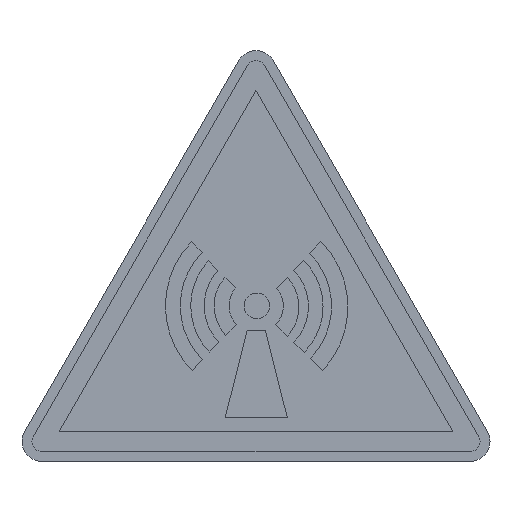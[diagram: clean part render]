
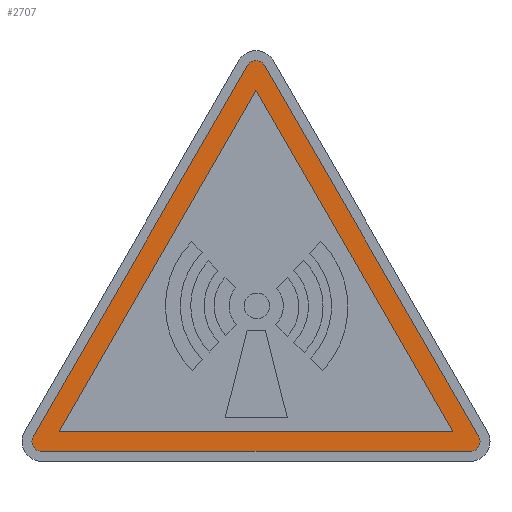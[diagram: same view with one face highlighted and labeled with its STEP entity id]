
A CAD part, top view. The second image highlights one B-rep face of the part: STEP entity #2707.
In plain terms, the highlighted planar face has unit normal (0, 0, 1).
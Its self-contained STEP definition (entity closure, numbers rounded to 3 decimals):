
#32 = DIRECTION ( 'NONE',  ( -0.5, -0.866, 0. ) ) ;
#47 = EDGE_CURVE ( 'NONE', #2139, #2609, #1051, .T. ) ;
#52 = CARTESIAN_POINT ( 'NONE',  ( -21.536, 1., 0.22 ) ) ;
#195 = CARTESIAN_POINT ( 'NONE',  ( 0., 39.301, 0.22 ) ) ;
#313 = VECTOR ( 'NONE', #970, 1000. ) ;
#366 = ORIENTED_EDGE ( 'NONE', *, *, #1583, .T. ) ;
#439 = VECTOR ( 'NONE', #1752, 1000. ) ;
#453 = CARTESIAN_POINT ( 'NONE',  ( 22.402, 2.5, 0.22 ) ) ;
#458 = CARTESIAN_POINT ( 'NONE',  ( -0.866, 39.801, 0.22 ) ) ;
#478 = EDGE_CURVE ( 'NONE', #1456, #522, #1004, .T. ) ;
#486 = CARTESIAN_POINT ( 'NONE',  ( 19.804, 3., 0.22 ) ) ;
#522 = VERTEX_POINT ( 'NONE', #799 ) ;
#561 = CARTESIAN_POINT ( 'NONE',  ( 22.402, 2.5, 0.22 ) ) ;
#567 = DIRECTION ( 'NONE',  ( 0., 0., 1. ) ) ;
#636 = CARTESIAN_POINT ( 'NONE',  ( 21.536, 1., 0.22 ) ) ;
#669 = DIRECTION ( 'NONE',  ( 0., 0., 1. ) ) ;
#693 = VERTEX_POINT ( 'NONE', #1804 ) ;
#715 = CARTESIAN_POINT ( 'NONE',  ( -22.536, 2., 0.22 ) ) ;
#799 = CARTESIAN_POINT ( 'NONE',  ( 0.866, 39.801, 0.22 ) ) ;
#816 = CARTESIAN_POINT ( 'NONE',  ( -21.536, 2., 0.22 ) ) ;
#836 = AXIS2_PLACEMENT_3D ( 'NONE', #1662, #2465, #1909 ) ;
#838 = DIRECTION ( 'NONE',  ( 0., 0., 1. ) ) ;
#845 = LINE ( 'NONE', #1081, #1607 ) ;
#854 = CARTESIAN_POINT ( 'NONE',  ( 0., 37.301, 0.22 ) ) ;
#914 = AXIS2_PLACEMENT_3D ( 'NONE', #2608, #669, #1544 ) ;
#941 = EDGE_CURVE ( 'NONE', #1649, #2005, #1303, .T. ) ;
#943 = AXIS2_PLACEMENT_3D ( 'NONE', #195, #838, #1519 ) ;
#970 = DIRECTION ( 'NONE',  ( -0.5, 0.866, 0. ) ) ;
#1004 = LINE ( 'NONE', #561, #313 ) ;
#1030 = EDGE_CURVE ( 'NONE', #1937, #1649, #1845, .T. ) ;
#1051 = CIRCLE ( 'NONE', #2438, 1. ) ;
#1059 = VECTOR ( 'NONE', #1356, 1000. ) ;
#1081 = CARTESIAN_POINT ( 'NONE',  ( 0., 37.301, 0.22 ) ) ;
#1108 = CIRCLE ( 'NONE', #914, 1. ) ;
#1123 = ORIENTED_EDGE ( 'NONE', *, *, #2010, .T. ) ;
#1176 = CARTESIAN_POINT ( 'NONE',  ( -19.804, 3., 0.22 ) ) ;
#1232 = DIRECTION ( 'NONE',  ( 0., 0., 1. ) ) ;
#1253 = EDGE_LOOP ( 'NONE', ( #2560, #1477, #2297 ) ) ;
#1267 = ORIENTED_EDGE ( 'NONE', *, *, #1866, .T. ) ;
#1277 = VECTOR ( 'NONE', #2689, 1000. ) ;
#1303 = LINE ( 'NONE', #2170, #439 ) ;
#1323 = VERTEX_POINT ( 'NONE', #2285 ) ;
#1356 = DIRECTION ( 'NONE',  ( 1., 0., 0. ) ) ;
#1433 = FACE_BOUND ( 'NONE', #1253, .T. ) ;
#1448 = EDGE_CURVE ( 'NONE', #693, #2139, #1108, .T. ) ;
#1456 = VERTEX_POINT ( 'NONE', #453 ) ;
#1477 = ORIENTED_EDGE ( 'NONE', *, *, #2584, .F. ) ;
#1505 = EDGE_CURVE ( 'NONE', #1789, #1456, #2234, .T. ) ;
#1519 = DIRECTION ( 'NONE',  ( 1., 0., 0. ) ) ;
#1529 = EDGE_LOOP ( 'NONE', ( #1123, #1267, #2730, #1970, #366, #1685, #2105 ) ) ;
#1544 = DIRECTION ( 'NONE',  ( 1., 0., 0. ) ) ;
#1555 = LINE ( 'NONE', #458, #2652 ) ;
#1583 = EDGE_CURVE ( 'NONE', #2609, #1789, #2667, .T. ) ;
#1607 = VECTOR ( 'NONE', #2581, 1000. ) ;
#1649 = VERTEX_POINT ( 'NONE', #486 ) ;
#1662 = CARTESIAN_POINT ( 'NONE',  ( 0., 39.301, 0.22 ) ) ;
#1685 = ORIENTED_EDGE ( 'NONE', *, *, #1505, .T. ) ;
#1752 = DIRECTION ( 'NONE',  ( -0.5, 0.866, 0. ) ) ;
#1789 = VERTEX_POINT ( 'NONE', #636 ) ;
#1804 = CARTESIAN_POINT ( 'NONE',  ( -22.402, 2.5, 0.22 ) ) ;
#1820 = AXIS2_PLACEMENT_3D ( 'NONE', #1843, #567, #1878 ) ;
#1843 = CARTESIAN_POINT ( 'NONE',  ( 21.536, 2., 0.22 ) ) ;
#1845 = LINE ( 'NONE', #2491, #1277 ) ;
#1866 = EDGE_CURVE ( 'NONE', #1323, #693, #1555, .T. ) ;
#1878 = DIRECTION ( 'NONE',  ( 1., 0., 0. ) ) ;
#1880 = FACE_OUTER_BOUND ( 'NONE', #1529, .T. ) ;
#1887 = DIRECTION ( 'NONE',  ( 1., 0., 0. ) ) ;
#1909 = DIRECTION ( 'NONE',  ( 1., 0., 0. ) ) ;
#1937 = VERTEX_POINT ( 'NONE', #1176 ) ;
#1970 = ORIENTED_EDGE ( 'NONE', *, *, #47, .T. ) ;
#1974 = CARTESIAN_POINT ( 'NONE',  ( -21.536, 1., 0.22 ) ) ;
#2005 = VERTEX_POINT ( 'NONE', #854 ) ;
#2010 = EDGE_CURVE ( 'NONE', #522, #1323, #2466, .T. ) ;
#2091 = PLANE ( 'NONE',  #836 ) ;
#2105 = ORIENTED_EDGE ( 'NONE', *, *, #478, .T. ) ;
#2139 = VERTEX_POINT ( 'NONE', #715 ) ;
#2170 = CARTESIAN_POINT ( 'NONE',  ( 19.804, 3., 0.22 ) ) ;
#2234 = CIRCLE ( 'NONE', #1820, 1. ) ;
#2285 = CARTESIAN_POINT ( 'NONE',  ( -0.866, 39.801, 0.22 ) ) ;
#2297 = ORIENTED_EDGE ( 'NONE', *, *, #941, .F. ) ;
#2438 = AXIS2_PLACEMENT_3D ( 'NONE', #816, #1232, #1887 ) ;
#2465 = DIRECTION ( 'NONE',  ( 0., 0., 1. ) ) ;
#2466 = CIRCLE ( 'NONE', #943, 1. ) ;
#2491 = CARTESIAN_POINT ( 'NONE',  ( -19.804, 3., 0.22 ) ) ;
#2560 = ORIENTED_EDGE ( 'NONE', *, *, #1030, .F. ) ;
#2581 = DIRECTION ( 'NONE',  ( -0.5, -0.866, 0. ) ) ;
#2584 = EDGE_CURVE ( 'NONE', #2005, #1937, #845, .T. ) ;
#2608 = CARTESIAN_POINT ( 'NONE',  ( -21.536, 2., 0.22 ) ) ;
#2609 = VERTEX_POINT ( 'NONE', #1974 ) ;
#2652 = VECTOR ( 'NONE', #32, 1000. ) ;
#2667 = LINE ( 'NONE', #52, #1059 ) ;
#2689 = DIRECTION ( 'NONE',  ( 1., 0., 0. ) ) ;
#2707 = ADVANCED_FACE ( 'NONE', ( #1880, #1433 ), #2091, .T. ) ;
#2730 = ORIENTED_EDGE ( 'NONE', *, *, #1448, .T. ) ;
